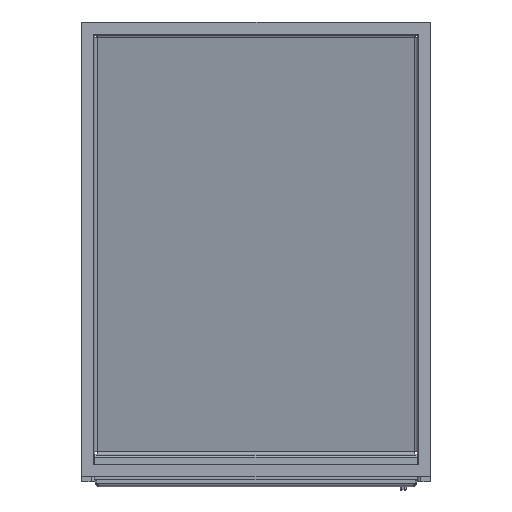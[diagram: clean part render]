
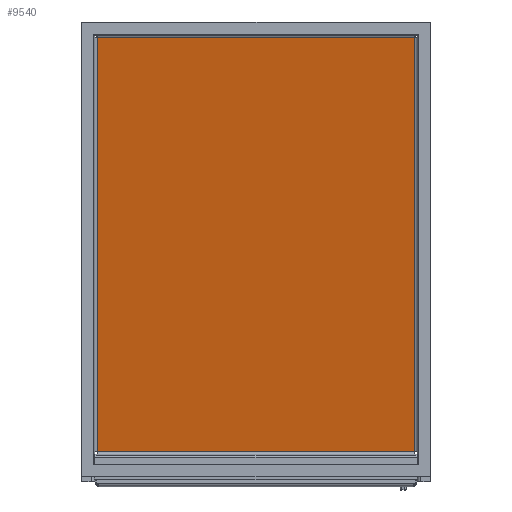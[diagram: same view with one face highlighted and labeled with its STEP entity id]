
A CAD part, front view. The second image highlights one B-rep face of the part: STEP entity #9540.
In plain terms, the highlighted planar face has unit normal (0, -0.982, -0.189).
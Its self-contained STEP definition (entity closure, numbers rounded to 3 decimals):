
#9540=ADVANCED_FACE('',(#19072),#15434,.T.);
#15434=PLANE('',#115149);
#19072=FACE_OUTER_BOUND('',#24830,.T.);
#24830=EDGE_LOOP('',(#34441,#34442,#34443,#34444,#34445,#34446));
#34441=ORIENTED_EDGE('',*,*,#76654,.T.);
#34442=ORIENTED_EDGE('',*,*,#76655,.T.);
#34443=ORIENTED_EDGE('',*,*,#76656,.T.);
#34444=ORIENTED_EDGE('',*,*,#76657,.T.);
#34445=ORIENTED_EDGE('',*,*,#76658,.T.);
#34446=ORIENTED_EDGE('',*,*,#76659,.T.);
#66249=VERTEX_POINT('',#152840);
#66250=VERTEX_POINT('',#152841);
#66251=VERTEX_POINT('',#152843);
#66252=VERTEX_POINT('',#152845);
#66253=VERTEX_POINT('',#152847);
#66254=VERTEX_POINT('',#152849);
#76654=EDGE_CURVE('',#66249,#66250,#92528,.T.);
#76655=EDGE_CURVE('',#66250,#66251,#92529,.T.);
#76656=EDGE_CURVE('',#66251,#66252,#92530,.T.);
#76657=EDGE_CURVE('',#66252,#66253,#92531,.T.);
#76658=EDGE_CURVE('',#66253,#66254,#92532,.T.);
#76659=EDGE_CURVE('',#66254,#66249,#92533,.T.);
#92528=LINE('',#152839,#103812);
#92529=LINE('',#152842,#103813);
#92530=LINE('',#152844,#103814);
#92531=LINE('',#152846,#103815);
#92532=LINE('',#152848,#103816);
#92533=LINE('',#152850,#103817);
#103812=VECTOR('',#123986,1.);
#103813=VECTOR('',#123987,1.);
#103814=VECTOR('',#123988,1.);
#103815=VECTOR('',#123989,1.);
#103816=VECTOR('',#123990,1.);
#103817=VECTOR('',#123991,1.);
#115149=AXIS2_PLACEMENT_3D('',#152851,#123992,#123993);
#123986=DIRECTION('',(-1.,0.,0.));
#123987=DIRECTION('',(0.,0.189,-0.982));
#123988=DIRECTION('',(0.,0.189,-0.982));
#123989=DIRECTION('',(1.,0.,0.));
#123990=DIRECTION('',(0.,-0.189,0.982));
#123991=DIRECTION('',(0.,-0.189,0.982));
#123992=DIRECTION('',(0.,-0.982,-0.189));
#123993=DIRECTION('',(0.,0.189,-0.982));
#152839=CARTESIAN_POINT('',(-203.,29.228,544.066));
#152840=CARTESIAN_POINT('',(203.,29.228,544.066));
#152841=CARTESIAN_POINT('',(-203.,29.228,544.066));
#152842=CARTESIAN_POINT('',(-203.,130.849,15.066));
#152843=CARTESIAN_POINT('',(-203.,130.849,15.066));
#152844=CARTESIAN_POINT('',(-203.,131.877,9.717));
#152845=CARTESIAN_POINT('',(-203.,130.849,15.066));
#152846=CARTESIAN_POINT('',(203.,130.849,15.066));
#152847=CARTESIAN_POINT('',(203.,130.849,15.066));
#152848=CARTESIAN_POINT('',(203.,131.877,9.717));
#152849=CARTESIAN_POINT('',(203.,130.849,15.066));
#152850=CARTESIAN_POINT('',(203.,131.877,9.717));
#152851=CARTESIAN_POINT('',(207.5,131.877,9.717));
